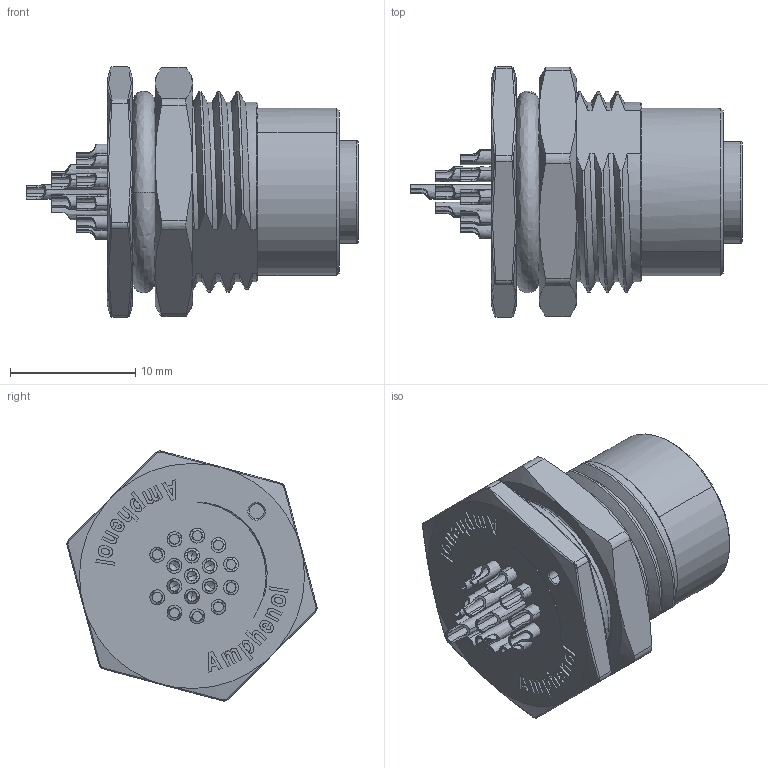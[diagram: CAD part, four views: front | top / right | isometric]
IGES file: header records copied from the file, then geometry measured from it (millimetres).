
Start section:  PTC IGES file: M12A-17PFFS-SF8002-IGS.igs
Global section: file name: M12A-17PFFS-SF8002-IGS.igs; native system: Creo Parametric by Parametric Technology Corporation; preprocessor: 2013050; author: K190165; organization: Unknown; date: 20210922.153925; units: millimetre
Bounding box: 26.5 x 19.96 x 19.96 mm (x, y, z)
Volume: 3189.4 mm3; surface area: 4167.6 mm2
Topology: 1 solids, 1 shells, 1101 faces, 3020 edges, 1953 vertices
Faces by surface type: revolution 544, bspline 477, extrusion 80
